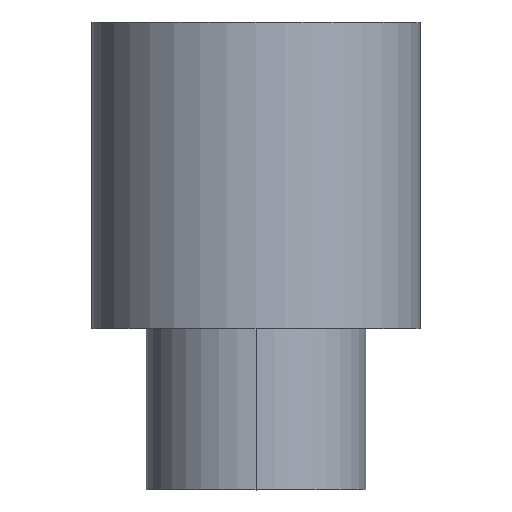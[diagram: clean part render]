
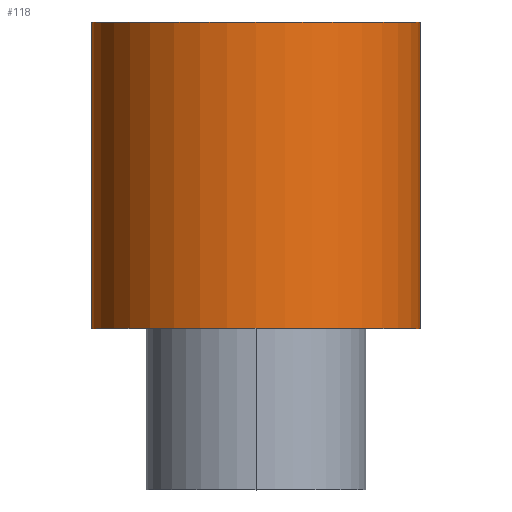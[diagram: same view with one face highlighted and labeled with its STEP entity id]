
A CAD part, top view. The second image highlights one B-rep face of the part: STEP entity #118.
In plain terms, the highlighted cylindrical face has radius 5.1 mm (diameter 10.2 mm), a partial arc.
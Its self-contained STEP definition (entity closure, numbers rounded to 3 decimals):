
#6=CARTESIAN_POINT('',(0.,0.,0.));
#7=DIRECTION('',(0.,1.,0.));
#8=DIRECTION('',(-1.,0.,0.));
#9=AXIS2_PLACEMENT_3D('',#6,#7,#8);
#21=DIRECTION('',(0.,1.,0.));
#22=VECTOR('',#21,9.5);
#23=CARTESIAN_POINT('',(5.1,0.,0.));
#24=LINE('',#23,#22);
#25=DIRECTION('',(0.,1.,0.));
#26=VECTOR('',#25,9.5);
#27=CARTESIAN_POINT('',(-5.1,0.,0.));
#28=LINE('',#27,#26);
#34=CARTESIAN_POINT('',(0.,9.5,0.));
#35=DIRECTION('',(0.,1.,0.));
#36=DIRECTION('',(-1.,0.,0.));
#37=AXIS2_PLACEMENT_3D('',#34,#35,#36);
#57=CARTESIAN_POINT('',(5.1,0.,0.));
#58=CARTESIAN_POINT('',(-5.1,0.,0.));
#59=VERTEX_POINT('',#57);
#60=VERTEX_POINT('',#58);
#61=CARTESIAN_POINT('',(5.1,9.5,0.));
#62=CARTESIAN_POINT('',(-5.1,9.5,0.));
#63=VERTEX_POINT('',#61);
#64=VERTEX_POINT('',#62);
#106=CARTESIAN_POINT('',(0.,0.,0.));
#107=DIRECTION('',(0.,1.,0.));
#108=DIRECTION('',(1.,0.,0.));
#109=AXIS2_PLACEMENT_3D('',#106,#107,#108);
#110=CYLINDRICAL_SURFACE('',#109,5.1);
#111=ORIENTED_EDGE('',*,*,#80,.F.);
#112=ORIENTED_EDGE('',*,*,#101,.T.);
#114=ORIENTED_EDGE('',*,*,#113,.T.);
#115=ORIENTED_EDGE('',*,*,#97,.F.);
#116=EDGE_LOOP('',(#111,#112,#114,#115));
#117=FACE_OUTER_BOUND('',#116,.F.);
#118=ADVANCED_FACE('',(#117),#110,.T.);
#10=CIRCLE('',#9,5.1);
#38=CIRCLE('',#37,5.1);
#80=EDGE_CURVE('',#60,#59,#10,.T.);
#97=EDGE_CURVE('',#59,#63,#24,.T.);
#101=EDGE_CURVE('',#60,#64,#28,.T.);
#113=EDGE_CURVE('',#64,#63,#38,.T.);
